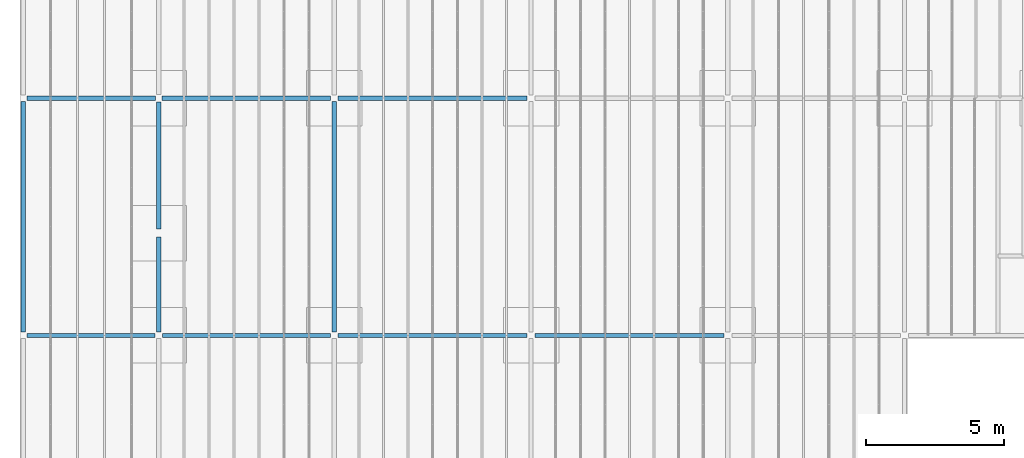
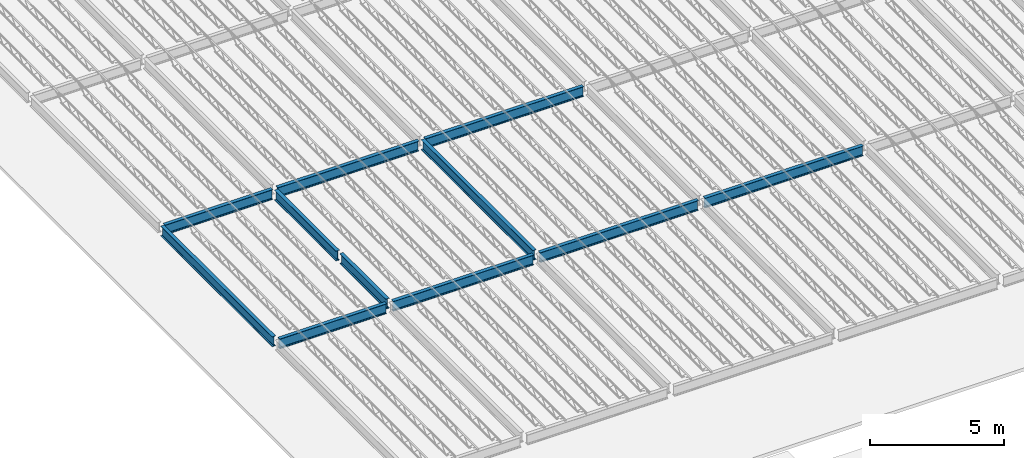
# One storey, part 4 of 75: 11 beams.
"""IFC2X3 building model written with IfcOpenShell, lengths in metres."""

from ifc_helpers import new_model, entity, si_unit, converted_unit, frame, frame_2d, origin, place, context, project, spatial, polyline, circle_curve, parameter, trimmed, segment, composite_curve, outline, extrude, material, element, save


model = new_model("IFC2X3")

# Units and contexts
model_context = context("Model", 3, precision=1e-09, world=origin())
plan_context = context("Plan", 3, precision=1e-09, world=origin())
ifc_project = project(units=[si_unit("LENGTHUNIT", "METRE"), si_unit("AREAUNIT", "SQUARE_METRE"), si_unit("VOLUMEUNIT", "CUBIC_METRE"), converted_unit("PLANEANGLEUNIT", "DEGREE", entity("IfcRatioMeasure", 0.01745329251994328), si_unit("PLANEANGLEUNIT", "RADIAN"), dimensions=[0, 0, 0, 0, 0, 0, 0]), si_unit("TIMEUNIT", "SECOND")], contexts=[model_context, plan_context])

# Site, building, storey
site_placement = place(None, origin())
site = spatial("IfcSite", under=ifc_project, at=site_placement, Name="Default", CompositionType="ELEMENT")
building_placement = place(site_placement, origin())
building = spatial("IfcBuilding", under=site, at=building_placement, CompositionType="ELEMENT")
storey_placement = place(building_placement, origin())
storey = spatial("IfcBuildingStorey", under=building, at=storey_placement, Name="First Floor", CompositionType="ELEMENT", Elevation=-3.531500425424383e-13)

# Beams
ifc_material = material(Name="Metal - Steel - 345 MPa")
beam_1_placement = place(storey_placement, frame((-51.90279412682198, 18.61000000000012, 4.404500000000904), z_axis=(0.0, 0.0, 1.0), x_axis=(0.0, -1.0, 0.0)))
element("IfcBeam", 1, at=beam_1_placement, inside=storey, material=ifc_material, Name="M_W-Wide Flange:W460X60:W460X60", ObjectType="M_W-Wide Flange:W460X60", context=model_context, shape_type="SweptSolid", body=[
    extrude(outline(composite_curve([segment(polyline([(-0.0765000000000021, -0.2142000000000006), (-0.0765000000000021, -0.2275000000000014)]), True, "CONTINUOUS"), segment(polyline([(-0.0765000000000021, -0.2275000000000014), (0.07649999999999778, -0.2275000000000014)]), True, "CONTINUOUS"), segment(polyline([(0.07649999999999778, -0.2275000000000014), (0.07649999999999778, -0.2142000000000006)]), True, "CONTINUOUS"), segment(polyline([(0.07649999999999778, -0.2142000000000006), (0.0216999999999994, -0.2142000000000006)]), True, "CONTINUOUS"), segment(trimmed(circle_curve(frame_2d((0.02169999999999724, -0.1965000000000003), x_axis=(1.0, 0.0)), 0.0177), [parameter(180.0)], [parameter(269.9999999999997)], True, "PARAMETER"), False, "CONTINUOUS"), segment(polyline([(0.00399999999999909, -0.1965000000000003), (0.00399999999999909, 0.1964999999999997)]), True, "CONTINUOUS"), segment(trimmed(circle_curve(frame_2d((0.02169999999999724, 0.1964999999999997), x_axis=(1.0, 0.0)), 0.0177), [parameter(90.00000000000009)], [parameter(179.9999999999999)], True, "PARAMETER"), False, "CONTINUOUS"), segment(polyline([(0.0216999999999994, 0.2141999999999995), (0.07649999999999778, 0.2141999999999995)]), True, "CONTINUOUS"), segment(polyline([(0.07649999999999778, 0.2141999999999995), (0.07649999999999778, 0.2274999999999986)]), True, "CONTINUOUS"), segment(polyline([(0.07649999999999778, 0.2274999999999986), (-0.0765000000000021, 0.2274999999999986)]), True, "CONTINUOUS"), segment(polyline([(-0.0765000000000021, 0.2274999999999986), (-0.0765000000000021, 0.2141999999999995)]), True, "CONTINUOUS"), segment(polyline([(-0.0765000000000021, 0.2141999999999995), (-0.02170000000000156, 0.2141999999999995)]), True, "CONTINUOUS"), segment(trimmed(circle_curve(frame_2d((-0.02170000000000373, 0.1964999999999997), x_axis=(1.0, 0.0)), 0.0177), [parameter(359.9999999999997)], [parameter(89.99999999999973)], True, "PARAMETER"), False, "CONTINUOUS"), segment(polyline([(-0.004000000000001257, 0.1964999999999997), (-0.004000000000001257, -0.1965000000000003)]), True, "CONTINUOUS"), segment(trimmed(circle_curve(frame_2d((-0.02170000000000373, -0.1965000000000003), x_axis=(1.0, 0.0)), 0.0177), [parameter(269.9999999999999)], [parameter(0.0)], True, "PARAMETER"), False, "CONTINUOUS"), segment(polyline([(-0.02170000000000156, -0.2142000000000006), (-0.0765000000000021, -0.2142000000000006)]), True, "CONTINUOUS")], self_intersect=False)), frame((0.0, 0.1439941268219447, -0.2275000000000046), z_axis=(0.0, -1.0, 0.0), x_axis=(1.0, 0.0, 0.0)), (0.0, 0.0, -1.0), 4.644100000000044),
])
beam_2_placement = place(storey_placement, frame((-33.5480740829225, 10.04000000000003, 4.404500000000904), z_axis=(0.0, 0.0, 1.0), x_axis=(0.0, 1.0, 0.0)))
element("IfcBeam", 2, at=beam_2_placement, inside=storey, material=ifc_material, Name="M_W-Wide Flange:W460X60:W460X60", ObjectType="M_W-Wide Flange:W460X60", context=model_context, shape_type="SweptSolid", body=[
    extrude(outline(composite_curve([segment(polyline([(0.2141999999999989, -0.07649999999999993), (0.2274999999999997, -0.07649999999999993)]), True, "CONTINUOUS"), segment(polyline([(0.2274999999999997, -0.07649999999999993), (0.2274999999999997, 0.07649999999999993)]), True, "CONTINUOUS"), segment(polyline([(0.2274999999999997, 0.07649999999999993), (0.2141999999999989, 0.07649999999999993)]), True, "CONTINUOUS"), segment(polyline([(0.2141999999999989, 0.07649999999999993), (0.2141999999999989, 0.02170000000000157)]), True, "CONTINUOUS"), segment(trimmed(circle_curve(frame_2d((0.1964999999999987, 0.02170000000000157), x_axis=(1.0, 0.0)), 0.0177), [parameter(269.9999999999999)], [parameter(359.9999999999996)], True, "PARAMETER"), False, "CONTINUOUS"), segment(polyline([(0.1964999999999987, 0.004000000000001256), (-0.1965000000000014, 0.004000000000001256)]), True, "CONTINUOUS"), segment(trimmed(circle_curve(frame_2d((-0.1965000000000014, 0.02170000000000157), x_axis=(0.0, -1.0)), 0.0177), [parameter(269.9999999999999)], [parameter(359.9999999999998)], True, "PARAMETER"), False, "CONTINUOUS"), segment(polyline([(-0.2142000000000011, 0.02170000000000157), (-0.2142000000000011, 0.07649999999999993)]), True, "CONTINUOUS"), segment(polyline([(-0.2142000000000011, 0.07649999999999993), (-0.2275000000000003, 0.07649999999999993)]), True, "CONTINUOUS"), segment(polyline([(-0.2275000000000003, 0.07649999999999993), (-0.2275000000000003, -0.07649999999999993)]), True, "CONTINUOUS"), segment(polyline([(-0.2275000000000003, -0.07649999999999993), (-0.2142000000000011, -0.07649999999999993)]), True, "CONTINUOUS"), segment(polyline([(-0.2142000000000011, -0.07649999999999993), (-0.2142000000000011, -0.0216999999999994)]), True, "CONTINUOUS"), segment(trimmed(circle_curve(frame_2d((-0.1965000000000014, -0.0216999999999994), x_axis=(-1.0, 0.0)), 0.0177), [parameter(269.9999999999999)], [parameter(359.9999999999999)], True, "PARAMETER"), False, "CONTINUOUS"), segment(polyline([(-0.1965000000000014, -0.003999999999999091), (0.1964999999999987, -0.003999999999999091)]), True, "CONTINUOUS"), segment(trimmed(circle_curve(frame_2d((0.1964999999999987, -0.0216999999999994), x_axis=(0.0, 1.0)), 0.0177), [parameter(269.9999999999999)], [parameter(5.088887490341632e-14)], True, "PARAMETER"), False, "CONTINUOUS"), segment(polyline([(0.2141999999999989, -0.0216999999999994), (0.2141999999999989, -0.07649999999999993)]), True, "CONTINUOUS")], self_intersect=False)), frame((0.0, 6.970725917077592, -0.2275000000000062), z_axis=(0.0, -1.0, 0.0), x_axis=(0.0, 0.0, -1.0)), (0.0, 0.0, 1.0), 6.827600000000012),
])
beam_3_placement = place(storey_placement, frame((-51.90000000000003, 18.61159788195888, 4.46800000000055), z_axis=(0.0, 0.0, 1.0), x_axis=(-1.0, 0.0, 0.0)))
element("IfcBeam", 3, at=beam_3_placement, inside=storey, material=ifc_material, Name="M_W-Wide Flange:W460X60:W460X60", ObjectType="M_W-Wide Flange:W460X60", context=model_context, shape_type="SweptSolid", body=[
    extrude(outline(composite_curve([segment(polyline([(0.2141999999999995, -0.0765000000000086), (0.2275000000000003, -0.0765000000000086)]), True, "CONTINUOUS"), segment(polyline([(0.2275000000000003, -0.0765000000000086), (0.2275000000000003, 0.07649999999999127)]), True, "CONTINUOUS"), segment(polyline([(0.2275000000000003, 0.07649999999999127), (0.2141999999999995, 0.07649999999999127)]), True, "CONTINUOUS"), segment(polyline([(0.2141999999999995, 0.07649999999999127), (0.2141999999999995, 0.02169999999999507)]), True, "CONTINUOUS"), segment(trimmed(circle_curve(frame_2d((0.1964999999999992, 0.02169999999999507), x_axis=(1.0, 0.0)), 0.0177), [parameter(269.9999999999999)], [parameter(359.9999999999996)], True, "PARAMETER"), False, "CONTINUOUS"), segment(polyline([(0.1964999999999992, 0.003999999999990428), (-0.1965000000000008, 0.003999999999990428)]), True, "CONTINUOUS"), segment(trimmed(circle_curve(frame_2d((-0.1965000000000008, 0.02169999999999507), x_axis=(0.0, -1.0)), 0.0177), [parameter(269.9999999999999)], [parameter(359.9999999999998)], True, "PARAMETER"), False, "CONTINUOUS"), segment(polyline([(-0.2142000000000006, 0.02169999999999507), (-0.2142000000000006, 0.07649999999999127)]), True, "CONTINUOUS"), segment(polyline([(-0.2142000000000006, 0.07649999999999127), (-0.2274999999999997, 0.07649999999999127)]), True, "CONTINUOUS"), segment(polyline([(-0.2274999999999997, 0.07649999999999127), (-0.2274999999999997, -0.0765000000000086)]), True, "CONTINUOUS"), segment(polyline([(-0.2274999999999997, -0.0765000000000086), (-0.2142000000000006, -0.0765000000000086)]), True, "CONTINUOUS"), segment(polyline([(-0.2142000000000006, -0.0765000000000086), (-0.2142000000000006, -0.02170000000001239)]), True, "CONTINUOUS"), segment(trimmed(circle_curve(frame_2d((-0.1965000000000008, -0.02170000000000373), x_axis=(-1.0, 0.0)), 0.0177), [parameter(269.9999999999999)], [parameter(359.9999999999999)], True, "PARAMETER"), False, "CONTINUOUS"), segment(polyline([(-0.1965000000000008, -0.004000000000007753), (0.1964999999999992, -0.004000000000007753)]), True, "CONTINUOUS"), segment(trimmed(circle_curve(frame_2d((0.1964999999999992, -0.02170000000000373), x_axis=(0.0, 1.0)), 0.0177), [parameter(269.9999999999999)], [parameter(5.088887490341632e-14)], True, "PARAMETER"), False, "CONTINUOUS"), segment(polyline([(0.2141999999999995, -0.02170000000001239), (0.2141999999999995, -0.0765000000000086)]), True, "CONTINUOUS")], self_intersect=False)), frame((0.0, 8.45689788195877, -0.2275000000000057), z_axis=(0.0, -1.0, 0.0), x_axis=(0.0, 0.0, -1.0)), (0.0, 0.0, 1.0), 8.340600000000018),
])
beam_4_placement = place(storey_placement, frame((-47.0, 13.73158710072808, 4.404500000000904)))
element("IfcBeam", 4, at=beam_4_placement, inside=storey, material=ifc_material, Name="M_W-Wide Flange:W460X60:W460X60", ObjectType="M_W-Wide Flange:W460X60", context=model_context, shape_type="SweptSolid", body=[
    extrude(outline(composite_curve([segment(polyline([(-0.07649999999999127, -0.2142000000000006), (-0.07649999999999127, -0.2275000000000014)]), True, "CONTINUOUS"), segment(polyline([(-0.07649999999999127, -0.2275000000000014), (0.0765000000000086, -0.2275000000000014)]), True, "CONTINUOUS"), segment(polyline([(0.0765000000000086, -0.2275000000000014), (0.0765000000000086, -0.2142000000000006)]), True, "CONTINUOUS"), segment(polyline([(0.0765000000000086, -0.2142000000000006), (0.02170000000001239, -0.2142000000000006)]), True, "CONTINUOUS"), segment(trimmed(circle_curve(frame_2d((0.02170000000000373, -0.1965000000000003), x_axis=(0.0, -1.0)), 0.0177), [parameter(269.9999999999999)], [parameter(359.9999999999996)], True, "PARAMETER"), False, "CONTINUOUS"), segment(polyline([(0.004000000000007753, -0.1965000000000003), (0.004000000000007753, 0.1964999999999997)]), True, "CONTINUOUS"), segment(trimmed(circle_curve(frame_2d((0.02170000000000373, 0.1964999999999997), x_axis=(-1.0, 0.0)), 0.0177), [parameter(269.9999999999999)], [parameter(359.9999999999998)], True, "PARAMETER"), False, "CONTINUOUS"), segment(polyline([(0.02170000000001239, 0.2141999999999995), (0.0765000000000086, 0.2141999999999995)]), True, "CONTINUOUS"), segment(polyline([(0.0765000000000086, 0.2141999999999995), (0.0765000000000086, 0.2274999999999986)]), True, "CONTINUOUS"), segment(polyline([(0.0765000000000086, 0.2274999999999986), (-0.07649999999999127, 0.2274999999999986)]), True, "CONTINUOUS"), segment(polyline([(-0.07649999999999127, 0.2274999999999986), (-0.07649999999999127, 0.2141999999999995)]), True, "CONTINUOUS"), segment(polyline([(-0.07649999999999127, 0.2141999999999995), (-0.02169999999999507, 0.2141999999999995)]), True, "CONTINUOUS"), segment(trimmed(circle_curve(frame_2d((-0.02169999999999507, 0.1964999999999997), x_axis=(0.0, 1.0)), 0.0177), [parameter(269.9999999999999)], [parameter(359.9999999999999)], True, "PARAMETER"), False, "CONTINUOUS"), segment(polyline([(-0.003999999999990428, 0.1964999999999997), (-0.003999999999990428, -0.1965000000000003)]), True, "CONTINUOUS"), segment(trimmed(circle_curve(frame_2d((-0.02169999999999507, -0.1965000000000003), x_axis=(1.0, 0.0)), 0.0177), [parameter(269.9999999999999)], [parameter(5.088887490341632e-14)], True, "PARAMETER"), False, "CONTINUOUS"), segment(polyline([(-0.02169999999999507, -0.2142000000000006), (-0.07649999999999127, -0.2142000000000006)]), True, "CONTINUOUS")], self_intersect=False)), frame((0.0, 0.1440080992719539, -0.2275000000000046), z_axis=(0.0, -1.0, 0.0), x_axis=(1.0, 0.0, 0.0)), (0.0, 0.0, -1.0), 4.593204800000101),
])
beam_5_placement = place(storey_placement, frame((-46.997205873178, 10.04000000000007, 4.404500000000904), z_axis=(0.0, 0.0, 1.0), x_axis=(0.0, 1.0, 0.0)))
element("IfcBeam", 5, at=beam_5_placement, inside=storey, material=ifc_material, Name="M_W-Wide Flange:W460X60:W460X60", ObjectType="M_W-Wide Flange:W460X60", context=model_context, shape_type="SweptSolid", body=[
    extrude(outline(composite_curve([segment(polyline([(0.2141999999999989, -0.07649999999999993), (0.2274999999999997, -0.07649999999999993)]), True, "CONTINUOUS"), segment(polyline([(0.2274999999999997, -0.07649999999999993), (0.2274999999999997, 0.07649999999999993)]), True, "CONTINUOUS"), segment(polyline([(0.2274999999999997, 0.07649999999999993), (0.2141999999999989, 0.07649999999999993)]), True, "CONTINUOUS"), segment(polyline([(0.2141999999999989, 0.07649999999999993), (0.2141999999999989, 0.02170000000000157)]), True, "CONTINUOUS"), segment(trimmed(circle_curve(frame_2d((0.1964999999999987, 0.02170000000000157), x_axis=(0.0, 1.0)), 0.0177), [parameter(180.0)], [parameter(269.9999999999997)], True, "PARAMETER"), False, "CONTINUOUS"), segment(polyline([(0.1964999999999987, 0.004000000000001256), (-0.1965000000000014, 0.004000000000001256)]), True, "CONTINUOUS"), segment(trimmed(circle_curve(frame_2d((-0.1965000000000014, 0.02170000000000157), x_axis=(0.0, 1.0)), 0.0177), [parameter(90.00000000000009)], [parameter(179.9999999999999)], True, "PARAMETER"), False, "CONTINUOUS"), segment(polyline([(-0.2142000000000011, 0.02170000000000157), (-0.2142000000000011, 0.07649999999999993)]), True, "CONTINUOUS"), segment(polyline([(-0.2142000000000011, 0.07649999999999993), (-0.2275000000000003, 0.07649999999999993)]), True, "CONTINUOUS"), segment(polyline([(-0.2275000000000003, 0.07649999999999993), (-0.2275000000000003, -0.07649999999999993)]), True, "CONTINUOUS"), segment(polyline([(-0.2275000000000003, -0.07649999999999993), (-0.2142000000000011, -0.07649999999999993)]), True, "CONTINUOUS"), segment(polyline([(-0.2142000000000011, -0.07649999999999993), (-0.2142000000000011, -0.0216999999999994)]), True, "CONTINUOUS"), segment(trimmed(circle_curve(frame_2d((-0.1965000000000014, -0.0216999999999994), x_axis=(0.0, 1.0)), 0.0177), [parameter(359.9999999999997)], [parameter(89.99999999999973)], True, "PARAMETER"), False, "CONTINUOUS"), segment(polyline([(-0.1965000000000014, -0.003999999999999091), (0.1964999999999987, -0.003999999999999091)]), True, "CONTINUOUS"), segment(trimmed(circle_curve(frame_2d((0.1964999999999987, -0.0216999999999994), x_axis=(0.0, 1.0)), 0.0177), [parameter(269.9999999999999)], [parameter(0.0)], True, "PARAMETER"), False, "CONTINUOUS"), segment(polyline([(0.2141999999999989, -0.0216999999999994), (0.2141999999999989, -0.07649999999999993)]), True, "CONTINUOUS")], self_intersect=False)), frame((0.0, 4.761594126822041, -0.2275000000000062), z_axis=(0.0, -1.0, 0.0), x_axis=(0.0, 0.0, -1.0)), (0.0, 0.0, 1.0), 4.617600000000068),
])
beam_6_placement = place(storey_placement, frame((-47.0, 10.03629485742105, 4.46800000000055)))
element("IfcBeam", 6, at=beam_6_placement, inside=storey, material=ifc_material, Name="M_W-Wide Flange:W460X60:W460X60", ObjectType="M_W-Wide Flange:W460X60", context=model_context, shape_type="SweptSolid", body=[
    extrude(outline(composite_curve([segment(polyline([(-0.07649999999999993, -0.2142), (-0.07649999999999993, -0.2275000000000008)]), True, "CONTINUOUS"), segment(polyline([(-0.07649999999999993, -0.2275000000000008), (0.07649999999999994, -0.2275000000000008)]), True, "CONTINUOUS"), segment(polyline([(0.07649999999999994, -0.2275000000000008), (0.07649999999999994, -0.2142)]), True, "CONTINUOUS"), segment(polyline([(0.07649999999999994, -0.2142), (0.02170000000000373, -0.2142)]), True, "CONTINUOUS"), segment(trimmed(circle_curve(frame_2d((0.02169999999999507, -0.1964999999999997), x_axis=(1.0, 0.0)), 0.0177), [parameter(180.0)], [parameter(269.9999999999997)], True, "PARAMETER"), False, "CONTINUOUS"), segment(polyline([(0.003999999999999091, -0.1964999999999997), (0.003999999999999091, 0.1965000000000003)]), True, "CONTINUOUS"), segment(trimmed(circle_curve(frame_2d((0.02169999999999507, 0.1965000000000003), x_axis=(1.0, 0.0)), 0.0177), [parameter(90.00000000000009)], [parameter(179.9999999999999)], True, "PARAMETER"), False, "CONTINUOUS"), segment(polyline([(0.02170000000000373, 0.2142000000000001), (0.07649999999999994, 0.2142000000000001)]), True, "CONTINUOUS"), segment(polyline([(0.07649999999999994, 0.2142000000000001), (0.07649999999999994, 0.2274999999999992)]), True, "CONTINUOUS"), segment(polyline([(0.07649999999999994, 0.2274999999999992), (-0.07649999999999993, 0.2274999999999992)]), True, "CONTINUOUS"), segment(polyline([(-0.07649999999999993, 0.2274999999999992), (-0.07649999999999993, 0.2142000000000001)]), True, "CONTINUOUS"), segment(polyline([(-0.07649999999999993, 0.2142000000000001), (-0.02170000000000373, 0.2142000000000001)]), True, "CONTINUOUS"), segment(trimmed(circle_curve(frame_2d((-0.02170000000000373, 0.1965000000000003), x_axis=(1.0, 0.0)), 0.0177), [parameter(359.9999999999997)], [parameter(89.99999999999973)], True, "PARAMETER"), False, "CONTINUOUS"), segment(polyline([(-0.003999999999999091, 0.1965000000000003), (-0.003999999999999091, -0.1964999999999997)]), True, "CONTINUOUS"), segment(trimmed(circle_curve(frame_2d((-0.02170000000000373, -0.1964999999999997), x_axis=(1.0, 0.0)), 0.0177), [parameter(269.9999999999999)], [parameter(0.0)], True, "PARAMETER"), False, "CONTINUOUS"), segment(polyline([(-0.02170000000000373, -0.2142), (-0.07649999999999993, -0.2142)]), True, "CONTINUOUS")], self_intersect=False)), frame((0.0, 0.1184051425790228, -0.2275000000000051), z_axis=(0.0, -1.0, 0.0), x_axis=(1.0, 0.0, 0.0)), (0.0, 0.0, -1.0), 3.438495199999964),
])
beam_7_placement = place(storey_placement, frame((-40.66000000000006, 18.61159788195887, 4.46800000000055), z_axis=(0.0, 0.0, 1.0), x_axis=(-1.0, 0.0, 0.0)))
element("IfcBeam", 7, at=beam_7_placement, inside=storey, material=ifc_material, Name="M_W-Wide Flange:W460X60:W460X60", ObjectType="M_W-Wide Flange:W460X60", context=model_context, shape_type="SweptSolid", body=[
    extrude(outline(composite_curve([segment(polyline([(0.2141999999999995, -0.07649999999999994), (0.2275000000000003, -0.07649999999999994)]), True, "CONTINUOUS"), segment(polyline([(0.2275000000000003, -0.07649999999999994), (0.2275000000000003, 0.07649999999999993)]), True, "CONTINUOUS"), segment(polyline([(0.2275000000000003, 0.07649999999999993), (0.2141999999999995, 0.07649999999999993)]), True, "CONTINUOUS"), segment(polyline([(0.2141999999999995, 0.07649999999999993), (0.2141999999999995, 0.02170000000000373)]), True, "CONTINUOUS"), segment(trimmed(circle_curve(frame_2d((0.1964999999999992, 0.02170000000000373), x_axis=(1.0, 0.0)), 0.0177), [parameter(269.9999999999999)], [parameter(359.9999999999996)], True, "PARAMETER"), False, "CONTINUOUS"), segment(polyline([(0.1964999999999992, 0.00399999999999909), (-0.1965000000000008, 0.00399999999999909)]), True, "CONTINUOUS"), segment(trimmed(circle_curve(frame_2d((-0.1965000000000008, 0.02170000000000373), x_axis=(0.0, -1.0)), 0.0177), [parameter(269.9999999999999)], [parameter(359.9999999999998)], True, "PARAMETER"), False, "CONTINUOUS"), segment(polyline([(-0.2142000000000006, 0.02170000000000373), (-0.2142000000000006, 0.07649999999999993)]), True, "CONTINUOUS"), segment(polyline([(-0.2142000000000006, 0.07649999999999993), (-0.2274999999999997, 0.07649999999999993)]), True, "CONTINUOUS"), segment(polyline([(-0.2274999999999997, 0.07649999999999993), (-0.2274999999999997, -0.07649999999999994)]), True, "CONTINUOUS"), segment(polyline([(-0.2274999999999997, -0.07649999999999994), (-0.2142000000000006, -0.07649999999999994)]), True, "CONTINUOUS"), segment(polyline([(-0.2142000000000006, -0.07649999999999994), (-0.2142000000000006, -0.02170000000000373)]), True, "CONTINUOUS"), segment(trimmed(circle_curve(frame_2d((-0.1965000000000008, -0.02169999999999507), x_axis=(-1.0, 0.0)), 0.0177), [parameter(269.9999999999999)], [parameter(359.9999999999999)], True, "PARAMETER"), False, "CONTINUOUS"), segment(polyline([(-0.1965000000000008, -0.003999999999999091), (0.1964999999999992, -0.003999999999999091)]), True, "CONTINUOUS"), segment(trimmed(circle_curve(frame_2d((0.1964999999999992, -0.02169999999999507), x_axis=(0.0, 1.0)), 0.0177), [parameter(269.9999999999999)], [parameter(5.088887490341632e-14)], True, "PARAMETER"), False, "CONTINUOUS"), segment(polyline([(0.2141999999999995, -0.02170000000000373), (0.2141999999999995, -0.07649999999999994)]), True, "CONTINUOUS")], self_intersect=False)), frame((0.0, 8.456897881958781, -0.2275000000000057), z_axis=(0.0, -1.0, 0.0), x_axis=(0.0, 0.0, -1.0)), (0.0, 0.0, 1.0), 8.340600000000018),
])
beam_8_placement = place(storey_placement, frame((-47.00215974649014, 10.04000000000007, 4.404500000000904), z_axis=(0.0, 0.0, 1.0), x_axis=(0.0, -1.0, 0.0)))
element("IfcBeam", 8, at=beam_8_placement, inside=storey, material=ifc_material, Name="M_W-Wide Flange:W460X60:W460X60", ObjectType="M_W-Wide Flange:W460X60", context=model_context, shape_type="SweptSolid", body=[
    extrude(outline(composite_curve([segment(polyline([(-0.07649999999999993, -0.2142000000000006), (-0.07649999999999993, -0.2275000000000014)]), True, "CONTINUOUS"), segment(polyline([(-0.07649999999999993, -0.2275000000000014), (0.07649999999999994, -0.2275000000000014)]), True, "CONTINUOUS"), segment(polyline([(0.07649999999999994, -0.2275000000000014), (0.07649999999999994, -0.2142000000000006)]), True, "CONTINUOUS"), segment(polyline([(0.07649999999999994, -0.2142000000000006), (0.02170000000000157, -0.2142000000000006)]), True, "CONTINUOUS"), segment(trimmed(circle_curve(frame_2d((0.0216999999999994, -0.1965000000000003), x_axis=(1.0, 0.0)), 0.0177), [parameter(180.0)], [parameter(269.9999999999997)], True, "PARAMETER"), False, "CONTINUOUS"), segment(polyline([(0.004000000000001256, -0.1965000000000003), (0.004000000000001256, 0.1964999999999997)]), True, "CONTINUOUS"), segment(trimmed(circle_curve(frame_2d((0.0216999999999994, 0.1964999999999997), x_axis=(1.0, 0.0)), 0.0177), [parameter(90.00000000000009)], [parameter(179.9999999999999)], True, "PARAMETER"), False, "CONTINUOUS"), segment(polyline([(0.02170000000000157, 0.2141999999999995), (0.07649999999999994, 0.2141999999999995)]), True, "CONTINUOUS"), segment(polyline([(0.07649999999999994, 0.2141999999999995), (0.07649999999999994, 0.2274999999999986)]), True, "CONTINUOUS"), segment(polyline([(0.07649999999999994, 0.2274999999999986), (-0.07649999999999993, 0.2274999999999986)]), True, "CONTINUOUS"), segment(polyline([(-0.07649999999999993, 0.2274999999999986), (-0.07649999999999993, 0.2141999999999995)]), True, "CONTINUOUS"), segment(polyline([(-0.07649999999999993, 0.2141999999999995), (-0.0216999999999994, 0.2141999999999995)]), True, "CONTINUOUS"), segment(trimmed(circle_curve(frame_2d((-0.02170000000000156, 0.1964999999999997), x_axis=(1.0, 0.0)), 0.0177), [parameter(359.9999999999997)], [parameter(89.99999999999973)], True, "PARAMETER"), False, "CONTINUOUS"), segment(polyline([(-0.003999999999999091, 0.1964999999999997), (-0.003999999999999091, -0.1965000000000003)]), True, "CONTINUOUS"), segment(trimmed(circle_curve(frame_2d((-0.02170000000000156, -0.1965000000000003), x_axis=(1.0, 0.0)), 0.0177), [parameter(269.9999999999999)], [parameter(0.0)], True, "PARAMETER"), False, "CONTINUOUS"), segment(polyline([(-0.0216999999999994, -0.2142000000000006), (-0.07649999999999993, -0.2142000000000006)]), True, "CONTINUOUS")], self_intersect=False)), frame((0.0, 0.1433597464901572, -0.2275000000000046), z_axis=(0.0, -1.0, 0.0), x_axis=(1.0, 0.0, 0.0)), (0.0, 0.0, -1.0), 6.05759999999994),
])
beam_9_placement = place(storey_placement, frame((-47.00215974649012, 18.61000000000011, 4.404500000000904), z_axis=(0.0, 0.0, 1.0), x_axis=(0.0, -1.0, 0.0)))
element("IfcBeam", 9, at=beam_9_placement, inside=storey, material=ifc_material, Name="M_W-Wide Flange:W460X60:W460X60", ObjectType="M_W-Wide Flange:W460X60", context=model_context, shape_type="SweptSolid", body=[
    extrude(outline(composite_curve([segment(polyline([(-0.07649999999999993, -0.2142000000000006), (-0.07649999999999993, -0.2275000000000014)]), True, "CONTINUOUS"), segment(polyline([(-0.07649999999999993, -0.2275000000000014), (0.07649999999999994, -0.2275000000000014)]), True, "CONTINUOUS"), segment(polyline([(0.07649999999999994, -0.2275000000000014), (0.07649999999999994, -0.2142000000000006)]), True, "CONTINUOUS"), segment(polyline([(0.07649999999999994, -0.2142000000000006), (0.02170000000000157, -0.2142000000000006)]), True, "CONTINUOUS"), segment(trimmed(circle_curve(frame_2d((0.0216999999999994, -0.1965000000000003), x_axis=(0.0, -1.0)), 0.0177), [parameter(269.9999999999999)], [parameter(359.9999999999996)], True, "PARAMETER"), False, "CONTINUOUS"), segment(polyline([(0.004000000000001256, -0.1965000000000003), (0.004000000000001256, 0.1964999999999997)]), True, "CONTINUOUS"), segment(trimmed(circle_curve(frame_2d((0.0216999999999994, 0.1964999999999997), x_axis=(-1.0, 0.0)), 0.0177), [parameter(269.9999999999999)], [parameter(359.9999999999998)], True, "PARAMETER"), False, "CONTINUOUS"), segment(polyline([(0.02170000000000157, 0.2141999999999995), (0.07649999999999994, 0.2141999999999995)]), True, "CONTINUOUS"), segment(polyline([(0.07649999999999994, 0.2141999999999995), (0.07649999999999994, 0.2274999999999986)]), True, "CONTINUOUS"), segment(polyline([(0.07649999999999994, 0.2274999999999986), (-0.07649999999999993, 0.2274999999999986)]), True, "CONTINUOUS"), segment(polyline([(-0.07649999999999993, 0.2274999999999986), (-0.07649999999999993, 0.2141999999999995)]), True, "CONTINUOUS"), segment(polyline([(-0.07649999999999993, 0.2141999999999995), (-0.0216999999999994, 0.2141999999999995)]), True, "CONTINUOUS"), segment(trimmed(circle_curve(frame_2d((-0.02170000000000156, 0.1964999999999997), x_axis=(0.0, 1.0)), 0.0177), [parameter(269.9999999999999)], [parameter(359.9999999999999)], True, "PARAMETER"), False, "CONTINUOUS"), segment(polyline([(-0.003999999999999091, 0.1964999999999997), (-0.003999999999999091, -0.1965000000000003)]), True, "CONTINUOUS"), segment(trimmed(circle_curve(frame_2d((-0.02170000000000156, -0.1965000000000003), x_axis=(1.0, 0.0)), 0.0177), [parameter(269.9999999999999)], [parameter(5.088887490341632e-14)], True, "PARAMETER"), False, "CONTINUOUS"), segment(polyline([(-0.0216999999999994, -0.2142000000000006), (-0.07649999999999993, -0.2142000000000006)]), True, "CONTINUOUS")], self_intersect=False)), frame((0.0, 0.1168597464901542, -0.2275000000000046), z_axis=(0.0, -1.0, 0.0), x_axis=(1.0, 0.0, 0.0)), (0.0, 0.0, -1.0), 6.084099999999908),
])
beam_10_placement = place(storey_placement, frame((-40.66192591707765, 18.61000000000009, 4.404500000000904), z_axis=(0.0, 0.0, 1.0), x_axis=(0.0, -1.0, 0.0)))
element("IfcBeam", 10, at=beam_10_placement, inside=storey, material=ifc_material, Name="M_W-Wide Flange:W460X60:W460X60", ObjectType="M_W-Wide Flange:W460X60", context=model_context, shape_type="SweptSolid", body=[
    extrude(outline(composite_curve([segment(polyline([(-0.0765000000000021, -0.2142000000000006), (-0.0765000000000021, -0.2275000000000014)]), True, "CONTINUOUS"), segment(polyline([(-0.0765000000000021, -0.2275000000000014), (0.07649999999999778, -0.2275000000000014)]), True, "CONTINUOUS"), segment(polyline([(0.07649999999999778, -0.2275000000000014), (0.07649999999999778, -0.2142000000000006)]), True, "CONTINUOUS"), segment(polyline([(0.07649999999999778, -0.2142000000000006), (0.0216999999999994, -0.2142000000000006)]), True, "CONTINUOUS"), segment(trimmed(circle_curve(frame_2d((0.02169999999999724, -0.1965000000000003), x_axis=(0.0, -1.0)), 0.0177), [parameter(269.9999999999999)], [parameter(359.9999999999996)], True, "PARAMETER"), False, "CONTINUOUS"), segment(polyline([(0.00399999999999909, -0.1965000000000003), (0.00399999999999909, 0.1964999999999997)]), True, "CONTINUOUS"), segment(trimmed(circle_curve(frame_2d((0.02169999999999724, 0.1964999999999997), x_axis=(-1.0, 0.0)), 0.0177), [parameter(269.9999999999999)], [parameter(359.9999999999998)], True, "PARAMETER"), False, "CONTINUOUS"), segment(polyline([(0.0216999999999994, 0.2141999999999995), (0.07649999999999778, 0.2141999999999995)]), True, "CONTINUOUS"), segment(polyline([(0.07649999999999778, 0.2141999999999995), (0.07649999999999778, 0.2274999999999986)]), True, "CONTINUOUS"), segment(polyline([(0.07649999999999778, 0.2274999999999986), (-0.0765000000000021, 0.2274999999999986)]), True, "CONTINUOUS"), segment(polyline([(-0.0765000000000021, 0.2274999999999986), (-0.0765000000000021, 0.2141999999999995)]), True, "CONTINUOUS"), segment(polyline([(-0.0765000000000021, 0.2141999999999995), (-0.02170000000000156, 0.2141999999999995)]), True, "CONTINUOUS"), segment(trimmed(circle_curve(frame_2d((-0.02170000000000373, 0.1964999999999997), x_axis=(0.0, 1.0)), 0.0177), [parameter(269.9999999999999)], [parameter(359.9999999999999)], True, "PARAMETER"), False, "CONTINUOUS"), segment(polyline([(-0.004000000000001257, 0.1964999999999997), (-0.004000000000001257, -0.1965000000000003)]), True, "CONTINUOUS"), segment(trimmed(circle_curve(frame_2d((-0.02170000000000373, -0.1965000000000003), x_axis=(1.0, 0.0)), 0.0177), [parameter(269.9999999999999)], [parameter(5.088887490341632e-14)], True, "PARAMETER"), False, "CONTINUOUS"), segment(polyline([(-0.02170000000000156, -0.2142000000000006), (-0.0765000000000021, -0.2142000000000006)]), True, "CONTINUOUS")], self_intersect=False)), frame((0.0, 0.1431259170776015, -0.2275000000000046), z_axis=(0.0, -1.0, 0.0), x_axis=(1.0, 0.0, 0.0)), (0.0, 0.0, -1.0), 6.827600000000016),
])
beam_11_placement = place(storey_placement, frame((-33.55192591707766, 10.04000000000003, 4.404500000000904), z_axis=(0.0, 0.0, 1.0), x_axis=(0.0, -1.0, 0.0)))
element("IfcBeam", 11, at=beam_11_placement, inside=storey, material=ifc_material, Name="M_W-Wide Flange:W460X60:W460X60", ObjectType="M_W-Wide Flange:W460X60", context=model_context, shape_type="SweptSolid", body=[
    extrude(outline(composite_curve([segment(polyline([(-0.07649999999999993, -0.2142000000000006), (-0.07649999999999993, -0.2275000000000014)]), True, "CONTINUOUS"), segment(polyline([(-0.07649999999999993, -0.2275000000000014), (0.07649999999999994, -0.2275000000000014)]), True, "CONTINUOUS"), segment(polyline([(0.07649999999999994, -0.2275000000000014), (0.07649999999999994, -0.2142000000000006)]), True, "CONTINUOUS"), segment(polyline([(0.07649999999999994, -0.2142000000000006), (0.02170000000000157, -0.2142000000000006)]), True, "CONTINUOUS"), segment(trimmed(circle_curve(frame_2d((0.0216999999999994, -0.1965000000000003), x_axis=(0.0, -1.0)), 0.0177), [parameter(269.9999999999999)], [parameter(359.9999999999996)], True, "PARAMETER"), False, "CONTINUOUS"), segment(polyline([(0.004000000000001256, -0.1965000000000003), (0.004000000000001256, 0.1964999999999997)]), True, "CONTINUOUS"), segment(trimmed(circle_curve(frame_2d((0.0216999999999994, 0.1964999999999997), x_axis=(-1.0, 0.0)), 0.0177), [parameter(269.9999999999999)], [parameter(359.9999999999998)], True, "PARAMETER"), False, "CONTINUOUS"), segment(polyline([(0.02170000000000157, 0.2141999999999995), (0.07649999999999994, 0.2141999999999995)]), True, "CONTINUOUS"), segment(polyline([(0.07649999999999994, 0.2141999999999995), (0.07649999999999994, 0.2274999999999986)]), True, "CONTINUOUS"), segment(polyline([(0.07649999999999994, 0.2274999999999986), (-0.07649999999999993, 0.2274999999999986)]), True, "CONTINUOUS"), segment(polyline([(-0.07649999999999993, 0.2274999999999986), (-0.07649999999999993, 0.2141999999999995)]), True, "CONTINUOUS"), segment(polyline([(-0.07649999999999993, 0.2141999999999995), (-0.0216999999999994, 0.2141999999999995)]), True, "CONTINUOUS"), segment(trimmed(circle_curve(frame_2d((-0.02170000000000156, 0.1964999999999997), x_axis=(0.0, 1.0)), 0.0177), [parameter(269.9999999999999)], [parameter(359.9999999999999)], True, "PARAMETER"), False, "CONTINUOUS"), segment(polyline([(-0.003999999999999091, 0.1964999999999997), (-0.003999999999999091, -0.1965000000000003)]), True, "CONTINUOUS"), segment(trimmed(circle_curve(frame_2d((-0.02170000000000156, -0.1965000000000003), x_axis=(1.0, 0.0)), 0.0177), [parameter(269.9999999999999)], [parameter(5.088887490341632e-14)], True, "PARAMETER"), False, "CONTINUOUS"), segment(polyline([(-0.0216999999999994, -0.2142000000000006), (-0.07649999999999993, -0.2142000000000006)]), True, "CONTINUOUS")], self_intersect=False)), frame((0.0, 0.1431259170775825, -0.2275000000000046), z_axis=(0.0, -1.0, 0.0), x_axis=(1.0, 0.0, 0.0)), (0.0, 0.0, -1.0), 6.827600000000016),
])

save(model, "model.ifc")
